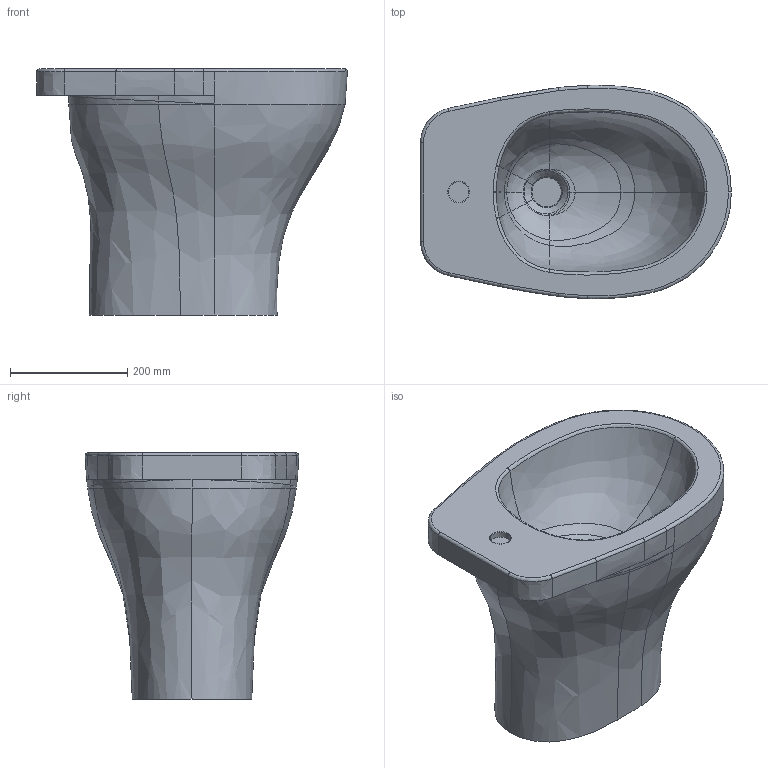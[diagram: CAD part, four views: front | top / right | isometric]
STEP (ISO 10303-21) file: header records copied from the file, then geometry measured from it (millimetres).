
FILE_DESCRIPTION(('CATIA V5 STEP Exchange'),'2;1');
FILE_NAME('C:\Users\Luca\Downloads\3D 7253 Bidet terra EDEN.stp','2021-03-31T07:42:31+00:00',('none'),('none'),'CATIA Version 5 Release 19 SP 5 (IN-10)','CATIA V5 STEP AP214','none');
FILE_SCHEMA(('AUTOMOTIVE_DESIGN { 1 0 10303 214 1 1 1 1 }'));
Length unit declared in the file: millimetre
Products named in the file (1): Bidet terra EDEN
Bounding box: 530.05 x 364.3 x 420 mm (x, y, z)
Volume: 29878238 mm3; surface area: 805387.2 mm2
Topology: 1 solids, 1 shells, 93 faces, 230 edges, 137 vertices
Faces by surface type: bspline 76, plane 6, cylinder 5, torus 4, cone 2
Entity records: 26212 total; most frequent: CARTESIAN_POINT 24669, ORIENTED_EDGE 452, EDGE_CURVE 226, B_SPLINE_CURVE_WITH_KNOTS 199, VERTEX_POINT 137, EDGE_LOOP 95, ADVANCED_FACE 93, FACE_OUTER_BOUND 93
